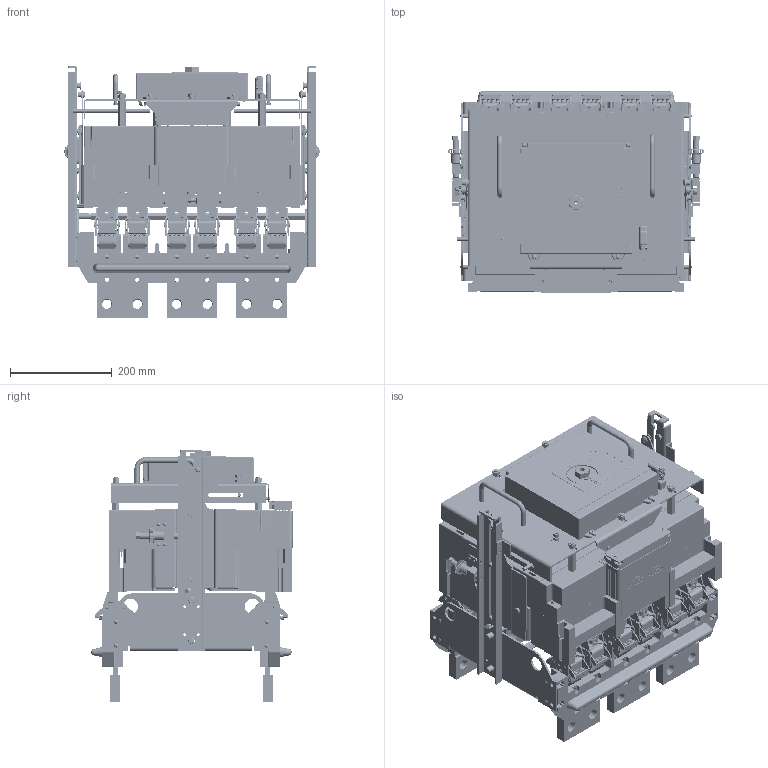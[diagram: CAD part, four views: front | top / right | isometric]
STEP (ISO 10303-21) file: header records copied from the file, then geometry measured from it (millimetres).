
FILE_DESCRIPTION (( 'STEP AP203' ), '1' );
FILE_NAME ('ÂÀ 55-43 ÂÈ ñ ýëåêòðîïðèâîäîì.STEP', '2014-06-24T06:29:43', ( 'admin' ), ( 'Microsoft' ), 'SwSTEP 2.0', 'SolidWorks 2007', '' );
FILE_SCHEMA (( 'CONFIG_CONTROL_DESIGN' ));
Products named in the file (1): ÂÀ 55-43 ÂÈ ñ ýëåêòðîïðèâîäîì
Bounding box: 502.99 x 396.27 x 494.25 mm (x, y, z)
Surface area: 2955401.9 mm2 (no closed solid volume)
Topology: 0 solids, 2330 shells, 13989 faces, 56907 edges, 44083 vertices
Faces by surface type: plane 7509, cylinder 4152, bspline 1375, torus 465, cone 376, sphere 112
Entity records: 1065546 total; most frequent: CARTESIAN_POINT 616626, DIRECTION 89558, ORIENTED_EDGE 78756, EDGE_CURVE 56847, VERTEX_POINT 44083, VECTOR 35284, LINE 35284, AXIS2_PLACEMENT_3D 27137
